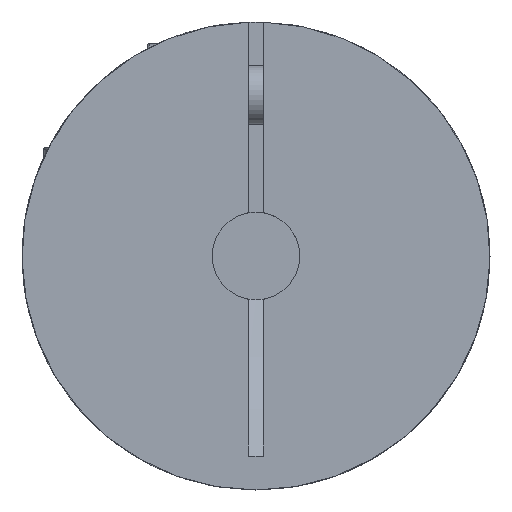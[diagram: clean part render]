
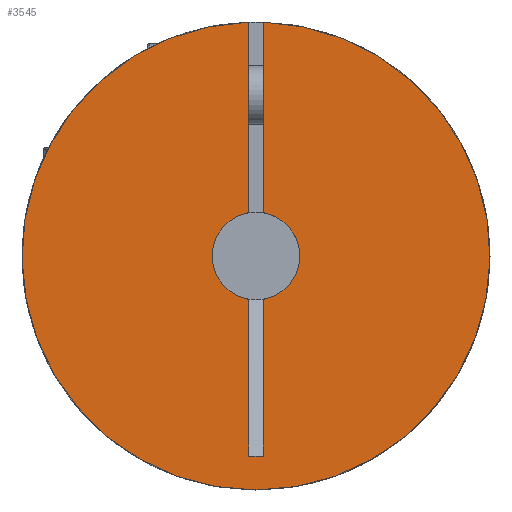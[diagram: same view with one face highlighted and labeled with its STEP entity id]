
A CAD part, left-side view. The second image highlights one B-rep face of the part: STEP entity #3545.
In plain terms, the highlighted planar face has unit normal (-1, 0, 0) as drawn and (0, 0, -1) by its records, which use the part's own axes.
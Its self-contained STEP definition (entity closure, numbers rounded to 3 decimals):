
#23 = VERTEX_POINT ( 'NONE', #690 ) ;
#38 = LINE ( 'NONE', #876, #2476 ) ;
#190 = PLANE ( 'NONE',  #982 ) ;
#245 = EDGE_CURVE ( 'NONE', #912, #2664, #567, .T. ) ;
#302 = CARTESIAN_POINT ( 'NONE',  ( 0., 0., 0. ) ) ;
#321 = ORIENTED_EDGE ( 'NONE', *, *, #2132, .F. ) ;
#374 = VECTOR ( 'NONE', #2636, 1000. ) ;
#459 = EDGE_CURVE ( 'NONE', #979, #2924, #3318, .T. ) ;
#518 = CARTESIAN_POINT ( 'NONE',  ( 16., 0., 0. ) ) ;
#533 = CARTESIAN_POINT ( 'NONE',  ( 0., 0., 0. ) ) ;
#534 = DIRECTION ( 'NONE',  ( 0., 0., 1. ) ) ;
#567 = CIRCLE ( 'NONE', #1591, 16. ) ;
#575 = LINE ( 'NONE', #3145, #732 ) ;
#619 = VECTOR ( 'NONE', #2141, 1000. ) ;
#690 = CARTESIAN_POINT ( 'NONE',  ( -15.992, -0.5, 0. ) ) ;
#732 = VECTOR ( 'NONE', #2850, 1000. ) ;
#739 = AXIS2_PLACEMENT_3D ( 'NONE', #3305, #2147, #1815 ) ;
#876 = CARTESIAN_POINT ( 'NONE',  ( -16., 0.5, 0. ) ) ;
#881 = ORIENTED_EDGE ( 'NONE', *, *, #3004, .F. ) ;
#890 = DIRECTION ( 'NONE',  ( -1., 0., 0. ) ) ;
#912 = VERTEX_POINT ( 'NONE', #518 ) ;
#979 = VERTEX_POINT ( 'NONE', #1925 ) ;
#982 = AXIS2_PLACEMENT_3D ( 'NONE', #533, #1069, #2263 ) ;
#1037 = ORIENTED_EDGE ( 'NONE', *, *, #2400, .F. ) ;
#1069 = DIRECTION ( 'NONE',  ( 0., 0., 1. ) ) ;
#1072 = DIRECTION ( 'NONE',  ( 0., 0., -1. ) ) ;
#1082 = EDGE_CURVE ( 'NONE', #2289, #3001, #575, .T. ) ;
#1422 = DIRECTION ( 'NONE',  ( 0., 0., -1. ) ) ;
#1467 = CIRCLE ( 'NONE', #3313, 3. ) ;
#1532 = ORIENTED_EDGE ( 'NONE', *, *, #245, .F. ) ;
#1591 = AXIS2_PLACEMENT_3D ( 'NONE', #3407, #534, #1682 ) ;
#1600 = EDGE_LOOP ( 'NONE', ( #881, #2564, #2648, #2792, #3259, #1037, #3206, #1532, #321 ) ) ;
#1629 = FACE_OUTER_BOUND ( 'NONE', #1600, .T. ) ;
#1682 = DIRECTION ( 'NONE',  ( 1., 0., 0. ) ) ;
#1692 = LINE ( 'NONE', #2922, #374 ) ;
#1694 = VERTEX_POINT ( 'NONE', #2320 ) ;
#1781 = CARTESIAN_POINT ( 'NONE',  ( -16., 0.5, 0. ) ) ;
#1815 = DIRECTION ( 'NONE',  ( 1., 0., 0. ) ) ;
#1925 = CARTESIAN_POINT ( 'NONE',  ( 2.958, -0.5, 0. ) ) ;
#2122 = CARTESIAN_POINT ( 'NONE',  ( -16., -0.5, 0. ) ) ;
#2132 = EDGE_CURVE ( 'NONE', #23, #912, #3018, .T. ) ;
#2141 = DIRECTION ( 'NONE',  ( -1., 0., 0. ) ) ;
#2147 = DIRECTION ( 'NONE',  ( 0., 0., 1. ) ) ;
#2195 = CARTESIAN_POINT ( 'NONE',  ( -2.958, 0.5, 0. ) ) ;
#2263 = DIRECTION ( 'NONE',  ( 1., 0., 0. ) ) ;
#2289 = VERTEX_POINT ( 'NONE', #3645 ) ;
#2320 = CARTESIAN_POINT ( 'NONE',  ( 2.958, 0.5, 0. ) ) ;
#2370 = CARTESIAN_POINT ( 'NONE',  ( -15.992, 0.5, 0. ) ) ;
#2386 = EDGE_CURVE ( 'NONE', #3105, #2664, #38, .T. ) ;
#2400 = EDGE_CURVE ( 'NONE', #3105, #1694, #1467, .T. ) ;
#2476 = VECTOR ( 'NONE', #890, 1000. ) ;
#2564 = ORIENTED_EDGE ( 'NONE', *, *, #459, .F. ) ;
#2636 = DIRECTION ( 'NONE',  ( -1., 0., 0. ) ) ;
#2648 = ORIENTED_EDGE ( 'NONE', *, *, #3183, .F. ) ;
#2664 = VERTEX_POINT ( 'NONE', #2370 ) ;
#2792 = ORIENTED_EDGE ( 'NONE', *, *, #1082, .T. ) ;
#2850 = DIRECTION ( 'NONE',  ( 0., 1., 0. ) ) ;
#2902 = DIRECTION ( 'NONE',  ( -1., 0., 0. ) ) ;
#2922 = CARTESIAN_POINT ( 'NONE',  ( -16., -0.5, 0. ) ) ;
#2924 = VERTEX_POINT ( 'NONE', #3681 ) ;
#3001 = VERTEX_POINT ( 'NONE', #3509 ) ;
#3004 = EDGE_CURVE ( 'NONE', #2924, #23, #3210, .T. ) ;
#3018 = CIRCLE ( 'NONE', #739, 16. ) ;
#3105 = VERTEX_POINT ( 'NONE', #2195 ) ;
#3130 = LINE ( 'NONE', #1781, #3249 ) ;
#3145 = CARTESIAN_POINT ( 'NONE',  ( 13.679, -0.5, 0. ) ) ;
#3183 = EDGE_CURVE ( 'NONE', #2289, #979, #1692, .T. ) ;
#3206 = ORIENTED_EDGE ( 'NONE', *, *, #2386, .T. ) ;
#3210 = LINE ( 'NONE', #2122, #619 ) ;
#3249 = VECTOR ( 'NONE', #3501, 1000. ) ;
#3259 = ORIENTED_EDGE ( 'NONE', *, *, #3274, .T. ) ;
#3274 = EDGE_CURVE ( 'NONE', #3001, #1694, #3130, .T. ) ;
#3305 = CARTESIAN_POINT ( 'NONE',  ( 0., 0., 0. ) ) ;
#3313 = AXIS2_PLACEMENT_3D ( 'NONE', #302, #1422, #2902 ) ;
#3318 = CIRCLE ( 'NONE', #3679, 3. ) ;
#3407 = CARTESIAN_POINT ( 'NONE',  ( 0., 0., 0. ) ) ;
#3501 = DIRECTION ( 'NONE',  ( -1., 0., 0. ) ) ;
#3509 = CARTESIAN_POINT ( 'NONE',  ( 13.679, 0.5, 0. ) ) ;
#3545 = ADVANCED_FACE ( 'NONE', ( #1629 ), #190, .F. ) ;
#3618 = DIRECTION ( 'NONE',  ( -1., 0., 0. ) ) ;
#3645 = CARTESIAN_POINT ( 'NONE',  ( 13.679, -0.5, 0. ) ) ;
#3652 = CARTESIAN_POINT ( 'NONE',  ( 0., 0., 0. ) ) ;
#3679 = AXIS2_PLACEMENT_3D ( 'NONE', #3652, #1072, #3618 ) ;
#3681 = CARTESIAN_POINT ( 'NONE',  ( -2.958, -0.5, 0. ) ) ;
